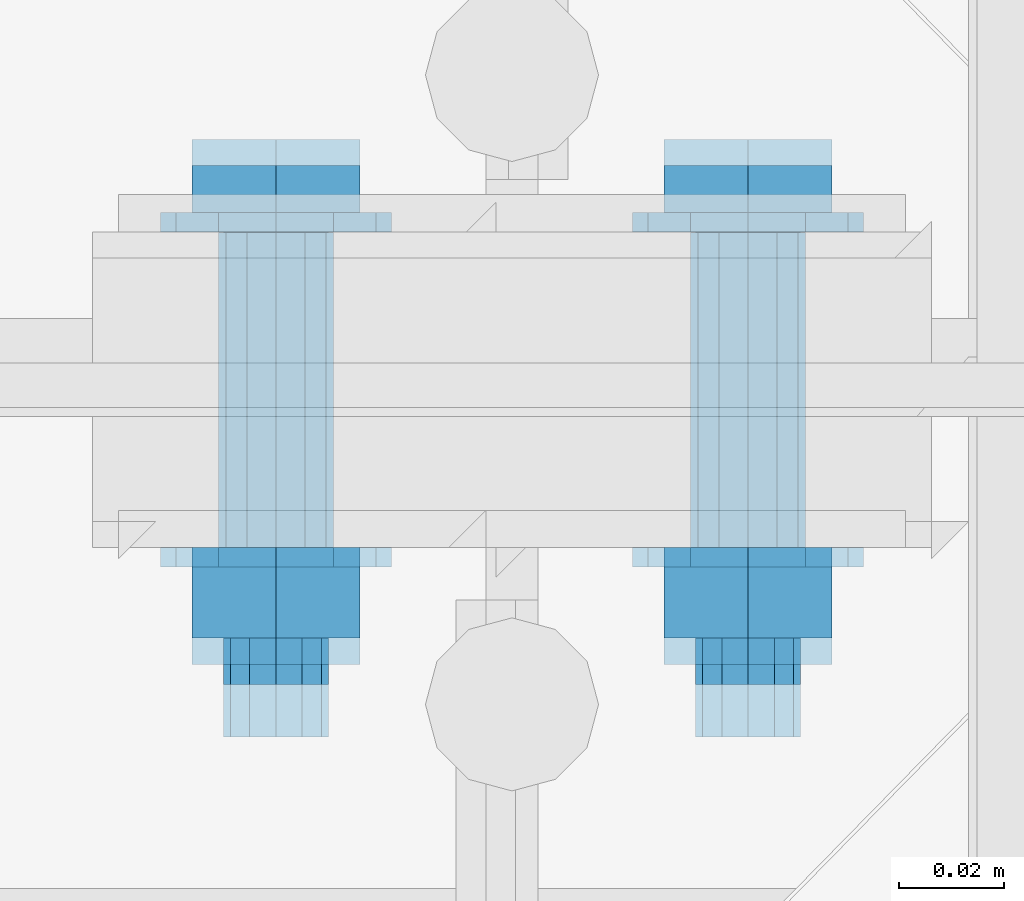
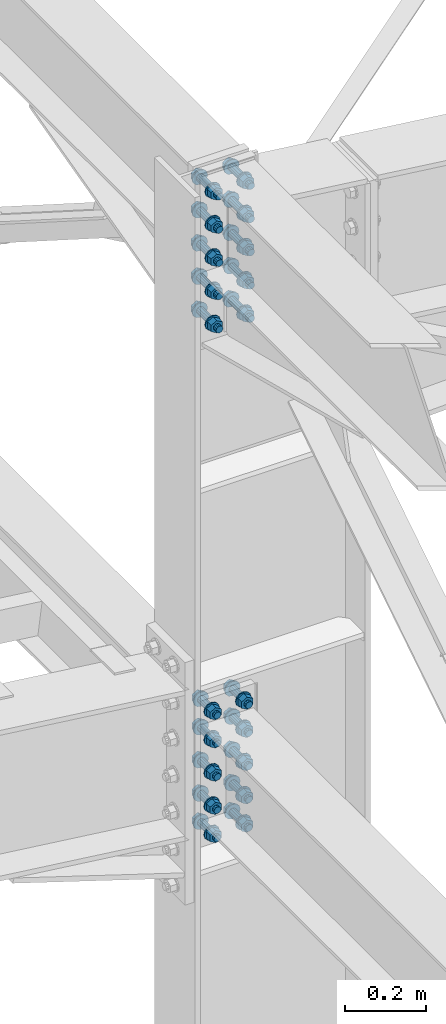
# One storey, part 261 of 3134: 2 mechanical fasteners, 1 element without a shape of its own.
"""IFC2X3 building model written with IfcOpenShell, lengths in millimetres."""

import ifcopenshell
import ifcopenshell.guid

model = None  # the IFC model being written
_history = None  # IfcOwnerHistory: only IFC2X3 demands one
_inside = {}  # id of a spatial element -> (the spatial element, [elements in it])
_under = {}  # id of a project, library or spatial element -> (it, [spatial elements below it])
_declared = {}  # id of a project -> (the project, [libraries it declares])
_typed = {}  # id of a type object -> (the type object, [elements of that type])
_made_of = {}  # id of a material, layer set ... -> (it, [elements and type objects made of it])


def new_model(schema):
    """Start an empty IFC model of exactly this schema.

    Asked for "IFC4X3", IfcOpenShell would pick the latest addendum, in which some entities
    have other attributes; the version numbers below select the first issue.
    IFC2X3 requires an IfcOwnerHistory on every rooted entity: one is made here for all.
    """
    global model, _history
    if schema == "IFC4X3":
        model = ifcopenshell.file(schema_version=(4, 3, 0, 0))
    else:
        model = ifcopenshell.file(schema=schema)
    _inside.clear()
    _under.clear()
    _declared.clear()
    _typed.clear()
    _made_of.clear()
    _history = None
    if model.schema == "IFC2X3":
        org = make("IfcOrganization", Name="unknown")
        user = make(
            "IfcPersonAndOrganization",
            ThePerson=make("IfcPerson", FamilyName="unknown"),
            TheOrganization=org,
        )
        app = make(
            "IfcApplication",
            ApplicationDeveloper=org,
            Version="unknown",
            ApplicationFullName="unknown",
            ApplicationIdentifier="unknown",
        )
        _history = make(
            "IfcOwnerHistory",
            OwningUser=user,
            OwningApplication=app,
            ChangeAction="ADDED",
            CreationDate=0,
        )
    return model


def make(cls, **values):
    """One entity of the class cls with the attributes given. An attribute that is None is left unset."""
    return model.create_entity(
        cls, **{name: value for name, value in values.items() if value is not None}
    )


def rooted(cls, **values):
    """An entity with a GlobalId (a new one), such as an element, a storey or a relation."""
    return make(cls, GlobalId=ifcopenshell.guid.new(), OwnerHistory=_history, **values)


def si_unit(unit_type, name, prefix=None):
    """IfcSIUnit, for example si_unit("LENGTHUNIT", "METRE", prefix="MILLI")."""
    return make("IfcSIUnit", UnitType=unit_type, Prefix=prefix, Name=name)


def assignment(units):
    """IfcUnitAssignment: the units of a project."""
    return None if units is None else make("IfcUnitAssignment", Units=units)


def point(xyz):
    """IfcCartesianPoint."""
    return None if xyz is None else make("IfcCartesianPoint", Coordinates=xyz)


def direction(xyz):
    """IfcDirection."""
    return None if xyz is None else make("IfcDirection", DirectionRatios=xyz)


def frame(location, z_axis=None, x_axis=None):
    """IfcAxis2Placement3D, a coordinate frame: its origin and axes. An axis left out is left unset."""
    return make(
        "IfcAxis2Placement3D",
        Location=point(location),
        Axis=direction(z_axis),
        RefDirection=direction(x_axis),
    )


def origin_with_axes():
    """The frame at (0, 0, 0) with the z axis (0, 0, 1) and the x axis (1, 0, 0) written out."""
    return frame((0.0, 0.0, 0.0), z_axis=(0.0, 0.0, 1.0), x_axis=(1.0, 0.0, 0.0))


def place(relative_to, where):
    """IfcLocalPlacement: puts the frame where relative to a parent placement (None: the world)."""
    return make(
        "IfcLocalPlacement", PlacementRelTo=relative_to, RelativePlacement=where
    )


def context(
    kind, dimensions, precision=None, world=None, true_north=None, identifier=None
):
    """IfcGeometricRepresentationContext, for example the 3D "Model" context."""
    return make(
        "IfcGeometricRepresentationContext",
        ContextIdentifier=identifier,
        ContextType=kind,
        CoordinateSpaceDimension=dimensions,
        Precision=precision,
        WorldCoordinateSystem=world,
        TrueNorth=true_north,
    )


def subcontext(parent, identifier, kind, view, scale=None):
    """IfcGeometricRepresentationSubContext, for example "Body" below "Model"."""
    return make(
        "IfcGeometricRepresentationSubContext",
        ContextIdentifier=identifier,
        ContextType=kind,
        ParentContext=parent,
        TargetScale=scale,
        TargetView=view,
    )


def project(units=None, contexts=None):
    """IfcProject with its units and contexts."""
    return rooted(
        "IfcProject",
        Name="project",
        RepresentationContexts=contexts,
        UnitsInContext=assignment(units),
    )


def spatial(cls, under=None, at=None, **own):
    """A site, building, storey or space (cls), placed at a placement, below another one or the project."""
    s = rooted(cls, ObjectPlacement=at, **own)
    if under is not None:
        _under.setdefault(under.id(), (under, []))[1].append(s)
    return s


def faces_of(points, faces, orient=None, outer=None):
    """IfcFace entities. A face is a list of loops; a loop is a list of indices into points, from 0.

    orient and outer hold one flag for each loop. By default every Orientation is true, the
    first loop of a face is its IfcFaceOuterBound and the others are IfcFaceBound.
    """
    made = []
    for i, loops in enumerate(faces):
        bounds = []
        for j, loop in enumerate(loops):
            is_outer = j == 0 if outer is None else outer[i][j]
            bounds.append(
                make(
                    "IfcFaceOuterBound" if is_outer else "IfcFaceBound",
                    Bound=make("IfcPolyLoop", Polygon=[points[k] for k in loop]),
                    Orientation=True if orient is None else orient[i][j],
                )
            )
        made.append(make("IfcFace", Bounds=bounds))
    return made


def faceted_brep(points, faces, orient=None, outer=None, voids=None):
    """IfcFacetedBrep: a solid bounded by flat faces; with voids (closed shells), ...WithVoids."""
    shared = [point(p) for p in points]
    hull = make("IfcClosedShell", CfsFaces=faces_of(shared, faces, orient, outer))
    if voids is None:
        return make("IfcFacetedBrep", Outer=hull)
    return make(
        "IfcFacetedBrepWithVoids",
        Outer=hull,
        Voids=[
            make(cls, CfsFaces=faces_of(shared, fs, o, b)) for cls, fs, o, b in voids
        ],
    )


def shape(context_of_items, identifier, shape_type, items):
    """IfcShapeRepresentation: the items that make up one representation, for example the "Body"."""
    return make(
        "IfcShapeRepresentation",
        ContextOfItems=context_of_items,
        RepresentationIdentifier=identifier,
        RepresentationType=shape_type,
        Items=items,
    )


def source(mapping_origin, context_of_items, identifier, shape_type, items):
    """IfcRepresentationMap: a shape defined once, which mapped items show again and again."""
    return make(
        "IfcRepresentationMap",
        MappingOrigin=mapping_origin,
        MappedRepresentation=shape(context_of_items, identifier, shape_type, items),
    )


def transform(
    local_origin,
    x_axis=None,
    y_axis=None,
    z_axis=None,
    scale=None,
    scale2=None,
    scale3=None,
    uniform=True,
):
    """IfcCartesianTransformationOperator3D, or its non-uniform kind. x_axis, y_axis, z_axis: its Axis1, 2, 3."""
    if uniform:
        return make(
            "IfcCartesianTransformationOperator3D",
            Axis1=direction(x_axis),
            Axis2=direction(y_axis),
            LocalOrigin=point(local_origin),
            Scale=scale,
            Axis3=direction(z_axis),
        )
    return make(
        "IfcCartesianTransformationOperator3DnonUniform",
        Axis1=direction(x_axis),
        Axis2=direction(y_axis),
        LocalOrigin=point(local_origin),
        Scale=scale,
        Axis3=direction(z_axis),
        Scale2=scale2,
        Scale3=scale3,
    )


def mapped(mapping_source, mapping_target):
    """IfcMappedItem: shows the shape of a source again, moved by a transform."""
    return make(
        "IfcMappedItem", MappingSource=mapping_source, MappingTarget=mapping_target
    )


def material(Name=None, Category=None):
    """IfcMaterial."""
    return make("IfcMaterial", Name=Name, Category=Category)


def made_of(thing, what):
    """Note that an element or type object is made of a material, layer set ...; save() writes the relation."""
    if what is not None:
        _made_of.setdefault(what.id(), (what, []))[1].append(thing)
    return thing


def type_object(cls, material=None, **own):
    """A type object (cls), such as IfcWallType, which elements share."""
    return made_of(rooted(cls, **own), material)


def element(
    cls,
    number,
    at=None,
    inside=None,
    cuts=None,
    type_object=None,
    material=None,
    context=None,
    identifier="Body",
    shape_type=None,
    held_by="IfcProductDefinitionShape",
    body=None,
    shapes=None,
    **own,
):
    """One element of the class cls, such as IfcWall. Its Tag is "e" and its number.

    at: its placement. inside: the storey or other place that contains it. cuts: it is an
    opening in that element (IfcRelVoidsElement). A single representation is given by context,
    identifier, shape_type and body (its items); several are given by shapes. held_by: the class
    of the entity that holds the representations. save() writes the other relations.
    """
    e = rooted(cls, Tag="e%d" % number, ObjectPlacement=at, **own)
    if body is not None:
        shapes = [shape(context, identifier, shape_type, body)]
    if shapes is not None:
        e.Representation = make(held_by, Representations=shapes)
    if inside is not None:
        _inside.setdefault(inside.id(), (inside, []))[1].append(e)
    if cuts is not None:
        rooted(
            "IfcRelVoidsElement", RelatingBuildingElement=cuts, RelatedOpeningElement=e
        )
    if type_object is not None:
        _typed.setdefault(type_object.id(), (type_object, []))[1].append(e)
    return made_of(e, material)


def aggregate(whole, parts):
    """IfcRelAggregates: a whole, such as a stair, and the parts it consists of."""
    return rooted("IfcRelAggregates", RelatingObject=whole, RelatedObjects=parts)


def save(model, path):
    """Write the relations noted so far, then the file.

    IfcRelAggregates (storeys below a building ...), IfcRelContainedInSpatialStructure (elements
    in a storey), IfcRelDefinesByType, IfcRelAssociatesMaterial and IfcRelDeclares: one each for
    every whole, place, type object, material and project.
    """
    for whole, parts in _under.values():
        aggregate(whole, parts)
    for where, things in _inside.values():
        rooted(
            "IfcRelContainedInSpatialStructure",
            RelatedElements=things,
            RelatingStructure=where,
        )
    for kind, things in _typed.values():
        rooted("IfcRelDefinesByType", RelatedObjects=things, RelatingType=kind)
    for what, things in _made_of.values():
        rooted("IfcRelAssociatesMaterial", RelatedObjects=things, RelatingMaterial=what)
    for by, libraries in _declared.values():
        rooted("IfcRelDeclares", RelatingContext=by, RelatedDefinitions=libraries)
    model.write(path)


model = new_model("IFC2X3")

# Units and contexts
model_context = context("Model", 3, precision=1e-05, world=origin_with_axes())
body_context = subcontext(model_context, "Body", "Model", "MODEL_VIEW")
ifc_project = project(units=[si_unit("LENGTHUNIT", "METRE", prefix="MILLI"), si_unit("AREAUNIT", "SQUARE_METRE"), si_unit("VOLUMEUNIT", "CUBIC_METRE"), si_unit("MASSUNIT", "GRAM", prefix="KILO"), si_unit("TIMEUNIT", "SECOND"), si_unit("PLANEANGLEUNIT", "RADIAN"), si_unit("SOLIDANGLEUNIT", "STERADIAN"), si_unit("THERMODYNAMICTEMPERATUREUNIT", "DEGREE_CELSIUS"), si_unit("LUMINOUSINTENSITYUNIT", "LUMEN")], contexts=[model_context])

# Site, building, storey
site_placement = place(None, origin_with_axes())
site = spatial("IfcSite", under=ifc_project, at=site_placement, CompositionType="ELEMENT")
building_placement = place(site_placement, origin_with_axes())
building = spatial("IfcBuilding", under=site, at=building_placement, Name="Undefined", CompositionType="ELEMENT")
storey_placement = place(building_placement, origin_with_axes())
storey = spatial("IfcBuildingStorey", under=building, at=storey_placement, Name="Undefined", CompositionType="ELEMENT", Elevation=0.0)

# Assembly, mechanical fasteners
assembly_placement = place(storey_placement, origin_with_axes())
assembly = element("IfcElementAssembly", 1, at=assembly_placement, inside=storey, Name="300", AssemblyPlace="NOTDEFINED", PredefinedType="RIGID_FRAME")
ifc_material = material(Name="HR10.9")
mechanical_fastener_type = type_object("IfcMechanicalFastenerType", Name="Bolt assembly")
shared_shape_1 = source(origin_with_axes(), body_context, "Body", "Brep", [
    faceted_brep([(18.475208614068, -18.3999996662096, 0.0), (9.23760430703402, -18.3999996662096, 16.0), (-9.23760430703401, -18.3999996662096, 16.0), (-18.475208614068, -18.3999996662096, 2.2625605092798e-15), (-9.23760430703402, -18.3999996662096, -16.0), (9.237604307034, -18.3999996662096, -16.0), (9.237604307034, -4.50000004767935, -16.0), (-9.23760430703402, -4.50000004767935, -16.0), (-18.475208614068, -4.50000004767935, 2.2625605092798e-15), (-9.23760430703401, -4.50000004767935, 16.0), (9.23760430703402, -4.50000004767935, 16.0), (18.475208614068, -4.50000004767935, 0.0), (10.0, -4.50000004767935, 0.0), (8.66025403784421, -4.50000004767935, 5.0000000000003), (4.9999999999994, -4.50000004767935, 8.66025403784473), (-1.03633598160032e-12, -4.50000004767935, 10.0), (-5.00000000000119, -4.50000004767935, 8.6602540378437), (-8.66025403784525, -4.50000004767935, 4.99999999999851), (-10.0, -4.50000004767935, -2.07267196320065e-12), (-8.66025403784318, -4.50000004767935, -5.00000000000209), (-4.99999999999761, -4.50000004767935, -8.66025403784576), (3.09790571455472e-12, -4.50000004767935, -10.0), (5.00000000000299, -4.50000004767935, -8.66025403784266), (8.66025403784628, -4.50000004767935, -4.99999999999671), (8.66025403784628, 80.4999999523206, -4.99999999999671), (5.00000000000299, 80.4999999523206, -8.66025403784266), (3.09790571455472e-12, 80.4999999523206, -10.0), (-4.99999999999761, 80.4999999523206, -8.66025403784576), (-8.66025403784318, 80.4999999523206, -5.00000000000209), (-10.0, 80.4999999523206, -2.07267196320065e-12), (-8.66025403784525, 80.4999999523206, 4.99999999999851), (-5.00000000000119, 80.4999999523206, 8.6602540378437), (-1.03633598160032e-12, 80.4999999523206, 10.0), (4.9999999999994, 80.4999999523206, 8.66025403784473), (8.66025403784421, 80.4999999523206, 5.0000000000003), (10.0, 80.4999999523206, 0.0), (22.0, -4.50000004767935, 0.0), (19.0525588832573, -4.50000004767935, 11.0000000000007), (10.9999999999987, -4.50000004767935, 19.0525588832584), (-2.27993915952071e-12, -4.50000004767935, 22.0), (-11.0000000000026, -4.50000004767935, 19.0525588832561), (-19.0525588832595, -4.50000004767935, 10.9999999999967), (-22.0, -4.50000004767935, -4.55987831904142e-12), (-19.052558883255, -4.50000004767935, -11.0000000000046), (-10.9999999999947, -4.50000004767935, -19.0525588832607), (6.81539257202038e-12, -4.50000004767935, -22.0), (11.0000000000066, -4.50000004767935, -19.0525588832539), (19.0525588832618, -4.50000004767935, -10.9999999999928), (19.0525588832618, -0.799999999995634, -10.9999999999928), (11.0000000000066, -0.799999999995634, -19.0525588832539), (6.81539257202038e-12, -0.799999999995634, -22.0), (-10.9999999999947, -0.799999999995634, -19.0525588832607), (-19.052558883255, -0.799999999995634, -11.0000000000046), (-22.0, -0.799999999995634, -4.55987831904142e-12), (-19.0525588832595, -0.799999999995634, 10.9999999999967), (-11.0000000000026, -0.799999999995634, 19.0525588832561), (-2.27993915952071e-12, -0.799999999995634, 22.0), (10.9999999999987, -0.799999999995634, 19.0525588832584), (19.0525588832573, -0.799999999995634, 11.0000000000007), (22.0, -0.799999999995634, 0.0), (22.0, 49.4000000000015, 0.0), (19.0525588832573, 49.4000000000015, 11.0000000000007), (10.9999999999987, 49.4000000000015, 19.0525588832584), (-2.27993915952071e-12, 49.4000000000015, 22.0), (-11.0000000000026, 49.4000000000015, 19.0525588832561), (-19.0525588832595, 49.4000000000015, 10.9999999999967), (-22.0, 49.4000000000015, -4.55987831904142e-12), (-19.052558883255, 49.4000000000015, -11.0000000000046), (-10.9999999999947, 49.4000000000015, -19.0525588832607), (6.81539257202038e-12, 49.4000000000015, -22.0), (11.0000000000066, 49.4000000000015, -19.0525588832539), (19.0525588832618, 49.4000000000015, -10.9999999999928), (19.0525588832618, 53.1000000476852, -10.9999999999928), (11.0000000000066, 53.1000000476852, -19.0525588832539), (6.81539257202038e-12, 53.1000000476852, -22.0), (-10.9999999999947, 53.1000000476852, -19.0525588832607), (-19.052558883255, 53.1000000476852, -11.0000000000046), (-22.0, 53.1000000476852, -4.55987831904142e-12), (-19.0525588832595, 53.1000000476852, 10.9999999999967), (-11.0000000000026, 53.1000000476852, 19.0525588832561), (-2.27993915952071e-12, 53.1000000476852, 22.0), (10.9999999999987, 53.1000000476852, 19.0525588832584), (19.0525588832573, 53.1000000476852, 11.0000000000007), (22.0, 53.1000000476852, 0.0), (18.475208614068, 53.1000000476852, 0.0), (9.23760430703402, 53.1000000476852, 16.0), (-9.23760430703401, 53.1000000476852, 16.0), (-18.475208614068, 53.1000000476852, 2.2625605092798e-15), (-9.23760430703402, 53.1000000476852, -16.0), (9.237604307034, 53.1000000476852, -16.0), (9.237604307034, 71.6499992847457, -16.0), (-9.23760430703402, 71.6499992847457, -16.0), (-18.475208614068, 71.6499992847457, 2.2625605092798e-15), (-9.23760430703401, 71.6499992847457, 16.0), (9.23760430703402, 71.6499992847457, 16.0), (18.475208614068, 71.6499992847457, 0.0)], [[[0, 1, 2, 3, 4, 5]], [[6, 7, 8, 9, 10, 11]], [[0, 11, 10, 1]], [[1, 10, 9, 2]], [[2, 9, 8, 3]], [[3, 8, 7, 4]], [[4, 7, 6, 5]], [[5, 6, 11, 0]], [[12, 13, 14, 15, 16, 17, 18, 19, 20, 21, 22, 23]], [[24, 25, 26, 27, 28, 29, 30, 31, 32, 33, 34, 35]], [[12, 35, 34, 13]], [[13, 34, 33, 14]], [[14, 33, 32, 15]], [[15, 32, 31, 16]], [[16, 31, 30, 17]], [[17, 30, 29, 18]], [[18, 29, 28, 19]], [[19, 28, 27, 20]], [[20, 27, 26, 21]], [[21, 26, 25, 22]], [[22, 25, 24, 23]], [[23, 24, 35, 12]], [[36, 37, 38, 39, 40, 41, 42, 43, 44, 45, 46, 47]], [[48, 49, 50, 51, 52, 53, 54, 55, 56, 57, 58, 59]], [[36, 59, 58, 37]], [[37, 58, 57, 38]], [[38, 57, 56, 39]], [[39, 56, 55, 40]], [[40, 55, 54, 41]], [[41, 54, 53, 42]], [[42, 53, 52, 43]], [[43, 52, 51, 44]], [[44, 51, 50, 45]], [[45, 50, 49, 46]], [[46, 49, 48, 47]], [[47, 48, 59, 36]], [[60, 61, 62, 63, 64, 65, 66, 67, 68, 69, 70, 71]], [[72, 73, 74, 75, 76, 77, 78, 79, 80, 81, 82, 83]], [[60, 83, 82, 61]], [[61, 82, 81, 62]], [[62, 81, 80, 63]], [[63, 80, 79, 64]], [[64, 79, 78, 65]], [[65, 78, 77, 66]], [[66, 77, 76, 67]], [[67, 76, 75, 68]], [[68, 75, 74, 69]], [[69, 74, 73, 70]], [[70, 73, 72, 71]], [[71, 72, 83, 60]], [[84, 85, 86, 87, 88, 89]], [[90, 91, 92, 93, 94, 95]], [[84, 95, 94, 85]], [[85, 94, 93, 86]], [[86, 93, 92, 87]], [[87, 92, 91, 88]], [[88, 91, 90, 89]], [[89, 90, 95, 84]]]),
    faceted_brep([(11.0, 19.2000000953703, 0.0), (9.52627944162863, 19.2000000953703, 5.50000000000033), (5.49999999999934, 19.2000000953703, 9.5262794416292), (-1.13996957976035e-12, 19.2000000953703, 11.0), (-5.50000000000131, 19.2000000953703, 9.52627944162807), (-9.52627944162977, 19.2000000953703, 5.49999999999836), (-11.0, 19.2000000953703, -2.27993915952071e-12), (-9.5262794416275, 19.2000000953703, -5.5000000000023), (-5.49999999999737, 19.2000000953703, -9.52627944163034), (3.40769628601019e-12, 19.2000000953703, -11.0), (5.50000000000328, 19.2000000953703, -9.52627944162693), (9.52627944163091, 19.2000000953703, -5.49999999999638), (9.52627944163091, 29.3999999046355, -5.49999999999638), (5.50000000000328, 29.3999999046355, -9.52627944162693), (3.40769628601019e-12, 29.3999999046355, -11.0), (-5.49999999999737, 29.3999999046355, -9.52627944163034), (-9.5262794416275, 29.3999999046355, -5.5000000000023), (-11.0, 29.3999999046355, -2.27993915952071e-12), (-9.52627944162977, 29.3999999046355, 5.49999999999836), (-5.50000000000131, 29.3999999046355, 9.52627944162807), (-1.13996957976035e-12, 29.3999999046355, 11.0), (5.49999999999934, 29.3999999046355, 9.5262794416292), (9.52627944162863, 29.3999999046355, 5.50000000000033), (11.0, 29.3999999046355, 0.0), (11.0, -0.699999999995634, 0.0), (9.52627944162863, -0.699999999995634, 5.50000000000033), (5.49999999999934, -0.699999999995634, 9.5262794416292), (-1.13996957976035e-12, -0.699999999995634, 11.0), (-5.50000000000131, -0.699999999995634, 9.52627944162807), (-9.52627944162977, -0.699999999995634, 5.49999999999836), (-11.0, -0.699999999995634, -2.27993915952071e-12), (-9.5262794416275, -0.699999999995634, -5.5000000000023), (-5.49999999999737, -0.699999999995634, -9.52627944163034), (3.40769628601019e-12, -0.699999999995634, -11.0), (5.50000000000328, -0.699999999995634, -9.52627944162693), (9.52627944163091, -0.699999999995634, -5.49999999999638), (9.52627944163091, 19.3000000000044, -5.49999999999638), (5.50000000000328, 19.3000000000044, -9.52627944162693), (3.40769628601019e-12, 19.3000000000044, -11.0), (-5.49999999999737, 19.3000000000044, -9.52627944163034), (-9.5262794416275, 19.3000000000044, -5.5000000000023), (-11.0, 19.3000000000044, -2.27993915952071e-12), (-9.52627944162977, 19.3000000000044, 5.49999999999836), (-5.50000000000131, 19.3000000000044, 9.52627944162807), (-1.13996957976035e-12, 19.3000000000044, 11.0), (5.49999999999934, 19.3000000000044, 9.5262794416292), (9.52627944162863, 19.3000000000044, 5.50000000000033), (11.0, 19.3000000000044, 0.0), (11.0, 29.3000000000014, 0.0), (9.52627944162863, 29.3000000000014, 5.50000000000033), (5.49999999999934, 29.3000000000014, 9.5262794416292), (-1.13996957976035e-12, 29.3000000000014, 11.0), (-5.50000000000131, 29.3000000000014, 9.52627944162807), (-9.52627944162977, 29.3000000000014, 5.49999999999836), (-11.0, 29.3000000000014, -2.27993915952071e-12), (-9.5262794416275, 29.3000000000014, -5.5000000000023), (-5.49999999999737, 29.3000000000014, -9.52627944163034), (3.40769628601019e-12, 29.3000000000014, -11.0), (5.50000000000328, 29.3000000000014, -9.52627944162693), (9.52627944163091, 29.3000000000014, -5.49999999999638), (9.52627944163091, 49.4000000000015, -5.49999999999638), (5.50000000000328, 49.4000000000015, -9.52627944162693), (3.40769628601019e-12, 49.4000000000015, -11.0), (-5.49999999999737, 49.4000000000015, -9.52627944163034), (-9.5262794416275, 49.4000000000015, -5.5000000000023), (-11.0, 49.4000000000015, -2.27993915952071e-12), (-9.52627944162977, 49.4000000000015, 5.49999999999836), (-5.50000000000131, 49.4000000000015, 9.52627944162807), (-1.13996957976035e-12, 49.4000000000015, 11.0), (5.49999999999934, 49.4000000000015, 9.5262794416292), (9.52627944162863, 49.4000000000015, 5.50000000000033), (11.0, 49.4000000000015, 0.0)], [[[0, 1, 2, 3, 4, 5, 6, 7, 8, 9, 10, 11]], [[12, 13, 14, 15, 16, 17, 18, 19, 20, 21, 22, 23]], [[0, 23, 22, 1]], [[1, 22, 21, 2]], [[2, 21, 20, 3]], [[3, 20, 19, 4]], [[4, 19, 18, 5]], [[5, 18, 17, 6]], [[6, 17, 16, 7]], [[7, 16, 15, 8]], [[8, 15, 14, 9]], [[9, 14, 13, 10]], [[10, 13, 12, 11]], [[11, 12, 23, 0]], [[24, 25, 26, 27, 28, 29, 30, 31, 32, 33, 34, 35]], [[36, 37, 38, 39, 40, 41, 42, 43, 44, 45, 46, 47]], [[24, 47, 46, 25]], [[25, 46, 45, 26]], [[26, 45, 44, 27]], [[27, 44, 43, 28]], [[28, 43, 42, 29]], [[29, 42, 41, 30]], [[30, 41, 40, 31]], [[31, 40, 39, 32]], [[32, 39, 38, 33]], [[33, 38, 37, 34]], [[34, 37, 36, 35]], [[35, 36, 47, 24]], [[48, 49, 50, 51, 52, 53, 54, 55, 56, 57, 58, 59]], [[60, 61, 62, 63, 64, 65, 66, 67, 68, 69, 70, 71]], [[48, 71, 70, 49]], [[49, 70, 69, 50]], [[50, 69, 68, 51]], [[51, 68, 67, 52]], [[52, 67, 66, 53]], [[53, 66, 65, 54]], [[54, 65, 64, 55]], [[55, 64, 63, 56]], [[56, 63, 62, 57]], [[57, 62, 61, 58]], [[58, 61, 60, 59]], [[59, 60, 71, 48]]]),
])
mechanical_fastener_1_placement = place(assembly_placement, frame((55875.0, 40274.3, 4273.5), z_axis=(-1.0, 0.0, 0.0), x_axis=(0.0, 0.0, -1.0)))
mechanical_fastener_1 = element("IfcMechanicalFastener", 2, at=mechanical_fastener_1_placement, type_object=mechanical_fastener_type, material=ifc_material, Name="Bolt assembly", NominalDiameter=20.0, NominalLength=85.0, context=body_context, shape_type="MappedRepresentation", body=[
    mapped(shared_shape_1, transform((0.0, 0.0, -45.0))),
    mapped(shared_shape_1, transform((85.0, 0.0, -45.0))),
    mapped(shared_shape_1, transform((185.0, 0.0, -45.0))),
    mapped(shared_shape_1, transform((285.0, 0.0, -45.0))),
    mapped(shared_shape_1, transform((370.0, 0.0, -45.0))),
    mapped(shared_shape_1, transform((0.0, 0.0, 45.0))),
    mapped(shared_shape_1, transform((85.0, 0.0, 45.0))),
    mapped(shared_shape_1, transform((185.0, 0.0, 45.0))),
    mapped(shared_shape_1, transform((285.0, 0.0, 45.0))),
    mapped(shared_shape_1, transform((370.0, 0.0, 45.0))),
])
shared_shape_2 = source(origin_with_axes(), body_context, "Body", "Brep", [
    faceted_brep([(18.475208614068, -47.6999994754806, 0.0), (9.23760430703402, -47.6999994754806, 16.0), (-9.23760430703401, -47.6999994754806, 16.0), (-18.475208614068, -47.6999994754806, 2.2625605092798e-15), (-9.23760430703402, -47.6999994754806, -16.0), (9.237604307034, -47.6999994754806, -16.0), (9.237604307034, -33.7999998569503, -16.0), (-9.23760430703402, -33.7999998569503, -16.0), (-18.475208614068, -33.7999998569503, 2.2625605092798e-15), (-9.23760430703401, -33.7999998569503, 16.0), (9.23760430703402, -33.7999998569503, 16.0), (18.475208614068, -33.7999998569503, 0.0), (10.0, -33.7999998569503, 0.0), (8.66025403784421, -33.7999998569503, 5.0000000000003), (4.9999999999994, -33.7999998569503, 8.66025403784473), (-1.03633598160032e-12, -33.7999998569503, 10.0), (-5.00000000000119, -33.7999998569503, 8.6602540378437), (-8.66025403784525, -33.7999998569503, 4.99999999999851), (-10.0, -33.7999998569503, -2.07267196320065e-12), (-8.66025403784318, -33.7999998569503, -5.00000000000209), (-4.99999999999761, -33.7999998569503, -8.66025403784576), (3.09790571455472e-12, -33.7999998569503, -10.0), (5.00000000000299, -33.7999998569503, -8.66025403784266), (8.66025403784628, -33.7999998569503, -4.99999999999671), (8.66025403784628, 66.2000001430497, -4.99999999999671), (5.00000000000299, 66.2000001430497, -8.66025403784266), (3.09790571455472e-12, 66.2000001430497, -10.0), (-4.99999999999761, 66.2000001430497, -8.66025403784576), (-8.66025403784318, 66.2000001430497, -5.00000000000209), (-10.0, 66.2000001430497, -2.07267196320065e-12), (-8.66025403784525, 66.2000001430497, 4.99999999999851), (-5.00000000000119, 66.2000001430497, 8.6602540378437), (-1.03633598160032e-12, 66.2000001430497, 10.0), (4.9999999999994, 66.2000001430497, 8.66025403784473), (8.66025403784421, 66.2000001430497, 5.0000000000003), (10.0, 66.2000001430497, 0.0), (22.0, -33.7999998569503, 0.0), (19.0525588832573, -33.7999998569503, 11.0000000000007), (10.9999999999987, -33.7999998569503, 19.0525588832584), (-2.27993915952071e-12, -33.7999998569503, 22.0), (-11.0000000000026, -33.7999998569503, 19.0525588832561), (-19.0525588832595, -33.7999998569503, 10.9999999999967), (-22.0, -33.7999998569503, -4.55987831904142e-12), (-19.052558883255, -33.7999998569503, -11.0000000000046), (-10.9999999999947, -33.7999998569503, -19.0525588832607), (6.81539257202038e-12, -33.7999998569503, -22.0), (11.0000000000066, -33.7999998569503, -19.0525588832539), (19.0525588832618, -33.7999998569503, -10.9999999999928), (19.0525588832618, -30.0999998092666, -10.9999999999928), (11.0000000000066, -30.0999998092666, -19.0525588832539), (6.81539257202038e-12, -30.0999998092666, -22.0), (-10.9999999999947, -30.0999998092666, -19.0525588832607), (-19.052558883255, -30.0999998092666, -11.0000000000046), (-22.0, -30.0999998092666, -4.55987831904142e-12), (-19.0525588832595, -30.0999998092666, 10.9999999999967), (-11.0000000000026, -30.0999998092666, 19.0525588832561), (-2.27993915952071e-12, -30.0999998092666, 22.0), (10.9999999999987, -30.0999998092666, 19.0525588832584), (19.0525588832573, -30.0999998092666, 11.0000000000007), (22.0, -30.0999998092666, 0.0), (22.0, 30.0999999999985, 0.0), (19.0525588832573, 30.0999999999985, 11.0000000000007), (10.9999999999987, 30.0999999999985, 19.0525588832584), (-2.27993915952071e-12, 30.0999999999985, 22.0), (-11.0000000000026, 30.0999999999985, 19.0525588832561), (-19.0525588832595, 30.0999999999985, 10.9999999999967), (-22.0, 30.0999999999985, -4.55987831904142e-12), (-19.052558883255, 30.0999999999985, -11.0000000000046), (-10.9999999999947, 30.0999999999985, -19.0525588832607), (6.81539257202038e-12, 30.0999999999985, -22.0), (11.0000000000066, 30.0999999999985, -19.0525588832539), (19.0525588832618, 30.0999999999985, -10.9999999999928), (19.0525588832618, 33.8000000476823, -10.9999999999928), (11.0000000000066, 33.8000000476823, -19.0525588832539), (6.81539257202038e-12, 33.8000000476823, -22.0), (-10.9999999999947, 33.8000000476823, -19.0525588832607), (-19.052558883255, 33.8000000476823, -11.0000000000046), (-22.0, 33.8000000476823, -4.55987831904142e-12), (-19.0525588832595, 33.8000000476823, 10.9999999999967), (-11.0000000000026, 33.8000000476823, 19.0525588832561), (-2.27993915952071e-12, 33.8000000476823, 22.0), (10.9999999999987, 33.8000000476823, 19.0525588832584), (19.0525588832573, 33.8000000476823, 11.0000000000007), (22.0, 33.8000000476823, 0.0), (18.475208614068, 33.8000000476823, 0.0), (9.23760430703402, 33.8000000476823, 16.0), (-9.23760430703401, 33.8000000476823, 16.0), (-18.475208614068, 33.8000000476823, 2.2625605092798e-15), (-9.23760430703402, 33.8000000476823, -16.0), (9.237604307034, 33.8000000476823, -16.0), (9.237604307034, 52.3499992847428, -16.0), (-9.23760430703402, 52.3499992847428, -16.0), (-18.475208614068, 52.3499992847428, 2.2625605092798e-15), (-9.23760430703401, 52.3499992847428, 16.0), (9.23760430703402, 52.3499992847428, 16.0), (18.475208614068, 52.3499992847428, 0.0)], [[[0, 1, 2, 3, 4, 5]], [[6, 7, 8, 9, 10, 11]], [[0, 11, 10, 1]], [[1, 10, 9, 2]], [[2, 9, 8, 3]], [[3, 8, 7, 4]], [[4, 7, 6, 5]], [[5, 6, 11, 0]], [[12, 13, 14, 15, 16, 17, 18, 19, 20, 21, 22, 23]], [[24, 25, 26, 27, 28, 29, 30, 31, 32, 33, 34, 35]], [[12, 35, 34, 13]], [[13, 34, 33, 14]], [[14, 33, 32, 15]], [[15, 32, 31, 16]], [[16, 31, 30, 17]], [[17, 30, 29, 18]], [[18, 29, 28, 19]], [[19, 28, 27, 20]], [[20, 27, 26, 21]], [[21, 26, 25, 22]], [[22, 25, 24, 23]], [[23, 24, 35, 12]], [[36, 37, 38, 39, 40, 41, 42, 43, 44, 45, 46, 47]], [[48, 49, 50, 51, 52, 53, 54, 55, 56, 57, 58, 59]], [[36, 59, 58, 37]], [[37, 58, 57, 38]], [[38, 57, 56, 39]], [[39, 56, 55, 40]], [[40, 55, 54, 41]], [[41, 54, 53, 42]], [[42, 53, 52, 43]], [[43, 52, 51, 44]], [[44, 51, 50, 45]], [[45, 50, 49, 46]], [[46, 49, 48, 47]], [[47, 48, 59, 36]], [[60, 61, 62, 63, 64, 65, 66, 67, 68, 69, 70, 71]], [[72, 73, 74, 75, 76, 77, 78, 79, 80, 81, 82, 83]], [[60, 83, 82, 61]], [[61, 82, 81, 62]], [[62, 81, 80, 63]], [[63, 80, 79, 64]], [[64, 79, 78, 65]], [[65, 78, 77, 66]], [[66, 77, 76, 67]], [[67, 76, 75, 68]], [[68, 75, 74, 69]], [[69, 74, 73, 70]], [[70, 73, 72, 71]], [[71, 72, 83, 60]], [[84, 85, 86, 87, 88, 89]], [[90, 91, 92, 93, 94, 95]], [[84, 95, 94, 85]], [[85, 94, 93, 86]], [[86, 93, 92, 87]], [[87, 92, 91, 88]], [[88, 91, 90, 89]], [[89, 90, 95, 84]]]),
    faceted_brep([(11.0, -5.09999980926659, 0.0), (9.52627944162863, -5.09999980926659, 5.50000000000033), (5.49999999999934, -5.09999980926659, 9.5262794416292), (-1.13996957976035e-12, -5.09999980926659, 11.0), (-5.50000000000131, -5.09999980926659, 9.52627944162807), (-9.52627944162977, -5.09999980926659, 5.49999999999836), (-11.0, -5.09999980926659, -2.27993915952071e-12), (-9.5262794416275, -5.09999980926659, -5.5000000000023), (-5.49999999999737, -5.09999980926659, -9.52627944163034), (3.40769628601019e-12, -5.09999980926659, -11.0), (5.50000000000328, -5.09999980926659, -9.52627944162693), (9.52627944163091, -5.09999980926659, -5.49999999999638), (9.52627944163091, 5.09999999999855, -5.49999999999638), (5.50000000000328, 5.09999999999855, -9.52627944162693), (3.40769628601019e-12, 5.09999999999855, -11.0), (-5.49999999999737, 5.09999999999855, -9.52627944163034), (-9.5262794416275, 5.09999999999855, -5.5000000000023), (-11.0, 5.09999999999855, -2.27993915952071e-12), (-9.52627944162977, 5.09999999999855, 5.49999999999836), (-5.50000000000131, 5.09999999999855, 9.52627944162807), (-1.13996957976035e-12, 5.09999999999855, 11.0), (5.49999999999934, 5.09999999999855, 9.5262794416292), (9.52627944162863, 5.09999999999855, 5.50000000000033), (11.0, 5.09999999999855, 0.0), (11.0, -29.9999998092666, 0.0), (9.52627944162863, -29.9999998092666, 5.50000000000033), (5.49999999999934, -29.9999998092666, 9.5262794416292), (-1.13996957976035e-12, -29.9999998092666, 11.0), (-5.50000000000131, -29.9999998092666, 9.52627944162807), (-9.52627944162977, -29.9999998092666, 5.49999999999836), (-11.0, -29.9999998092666, -2.27993915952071e-12), (-9.5262794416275, -29.9999998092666, -5.5000000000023), (-5.49999999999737, -29.9999998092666, -9.52627944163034), (3.40769628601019e-12, -29.9999998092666, -11.0), (5.50000000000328, -29.9999998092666, -9.52627944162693), (9.52627944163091, -29.9999998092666, -5.49999999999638), (9.52627944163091, -4.99999980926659, -5.49999999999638), (5.50000000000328, -4.99999980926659, -9.52627944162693), (3.40769628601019e-12, -4.99999980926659, -11.0), (-5.49999999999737, -4.99999980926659, -9.52627944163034), (-9.5262794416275, -4.99999980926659, -5.5000000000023), (-11.0, -4.99999980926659, -2.27993915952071e-12), (-9.52627944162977, -4.99999980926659, 5.49999999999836), (-5.50000000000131, -4.99999980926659, 9.52627944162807), (-1.13996957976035e-12, -4.99999980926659, 11.0), (5.49999999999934, -4.99999980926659, 9.5262794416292), (9.52627944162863, -4.99999980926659, 5.50000000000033), (11.0, -4.99999980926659, 0.0), (11.0, 4.99999999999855, 0.0), (9.52627944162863, 4.99999999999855, 5.50000000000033), (5.49999999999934, 4.99999999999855, 9.5262794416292), (-1.13996957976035e-12, 4.99999999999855, 11.0), (-5.50000000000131, 4.99999999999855, 9.52627944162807), (-9.52627944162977, 4.99999999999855, 5.49999999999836), (-11.0, 4.99999999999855, -2.27993915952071e-12), (-9.5262794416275, 4.99999999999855, -5.5000000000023), (-5.49999999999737, 4.99999999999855, -9.52627944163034), (3.40769628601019e-12, 4.99999999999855, -11.0), (5.50000000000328, 4.99999999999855, -9.52627944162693), (9.52627944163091, 4.99999999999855, -5.49999999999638), (9.52627944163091, 30.0999999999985, -5.49999999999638), (5.50000000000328, 30.0999999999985, -9.52627944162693), (3.40769628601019e-12, 30.0999999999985, -11.0), (-5.49999999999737, 30.0999999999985, -9.52627944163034), (-9.5262794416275, 30.0999999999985, -5.5000000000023), (-11.0, 30.0999999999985, -2.27993915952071e-12), (-9.52627944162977, 30.0999999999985, 5.49999999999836), (-5.50000000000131, 30.0999999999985, 9.52627944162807), (-1.13996957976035e-12, 30.0999999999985, 11.0), (5.49999999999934, 30.0999999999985, 9.5262794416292), (9.52627944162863, 30.0999999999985, 5.50000000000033), (11.0, 30.0999999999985, 0.0)], [[[0, 1, 2, 3, 4, 5, 6, 7, 8, 9, 10, 11]], [[12, 13, 14, 15, 16, 17, 18, 19, 20, 21, 22, 23]], [[0, 23, 22, 1]], [[1, 22, 21, 2]], [[2, 21, 20, 3]], [[3, 20, 19, 4]], [[4, 19, 18, 5]], [[5, 18, 17, 6]], [[6, 17, 16, 7]], [[7, 16, 15, 8]], [[8, 15, 14, 9]], [[9, 14, 13, 10]], [[10, 13, 12, 11]], [[11, 12, 23, 0]], [[24, 25, 26, 27, 28, 29, 30, 31, 32, 33, 34, 35]], [[36, 37, 38, 39, 40, 41, 42, 43, 44, 45, 46, 47]], [[24, 47, 46, 25]], [[25, 46, 45, 26]], [[26, 45, 44, 27]], [[27, 44, 43, 28]], [[28, 43, 42, 29]], [[29, 42, 41, 30]], [[30, 41, 40, 31]], [[31, 40, 39, 32]], [[32, 39, 38, 33]], [[33, 38, 37, 34]], [[34, 37, 36, 35]], [[35, 36, 47, 24]], [[48, 49, 50, 51, 52, 53, 54, 55, 56, 57, 58, 59]], [[60, 61, 62, 63, 64, 65, 66, 67, 68, 69, 70, 71]], [[48, 71, 70, 49]], [[49, 70, 69, 50]], [[50, 69, 68, 51]], [[51, 68, 67, 52]], [[52, 67, 66, 53]], [[53, 66, 65, 54]], [[54, 65, 64, 55]], [[55, 64, 63, 56]], [[56, 63, 62, 57]], [[57, 62, 61, 58]], [[58, 61, 60, 59]], [[59, 60, 71, 48]]]),
])
mechanical_fastener_2_placement = place(assembly_placement, frame((55875.0, 40250.0000000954, 5841.5), z_axis=(-1.0, 0.0, 0.0), x_axis=(0.0, 0.0, -1.0)))
mechanical_fastener_2 = element("IfcMechanicalFastener", 3, at=mechanical_fastener_2_placement, type_object=mechanical_fastener_type, material=ifc_material, Name="Bolt assembly", NominalDiameter=20.0, NominalLength=100.0, context=body_context, shape_type="MappedRepresentation", body=[
    mapped(shared_shape_2, transform((0.0, 0.0, -45.0))),
    mapped(shared_shape_2, transform((100.0, 0.0, -45.0))),
    mapped(shared_shape_2, transform((200.0, 0.0, -45.0))),
    mapped(shared_shape_2, transform((300.0, 0.0, -45.0))),
    mapped(shared_shape_2, transform((400.0, 0.0, -45.0))),
    mapped(shared_shape_2, transform((0.0, 0.0, 45.0))),
    mapped(shared_shape_2, transform((100.0, 0.0, 45.0))),
    mapped(shared_shape_2, transform((200.0, 0.0, 45.0))),
    mapped(shared_shape_2, transform((300.0, 0.0, 45.0))),
    mapped(shared_shape_2, transform((400.0, 0.0, 45.0))),
])
aggregate(assembly, [mechanical_fastener_1, mechanical_fastener_2])

save(model, "model.ifc")
